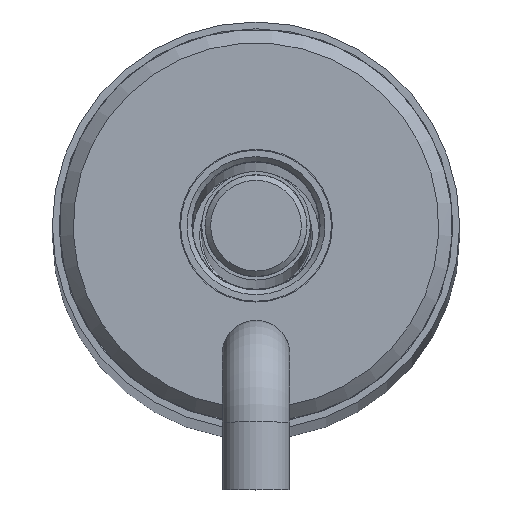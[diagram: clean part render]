
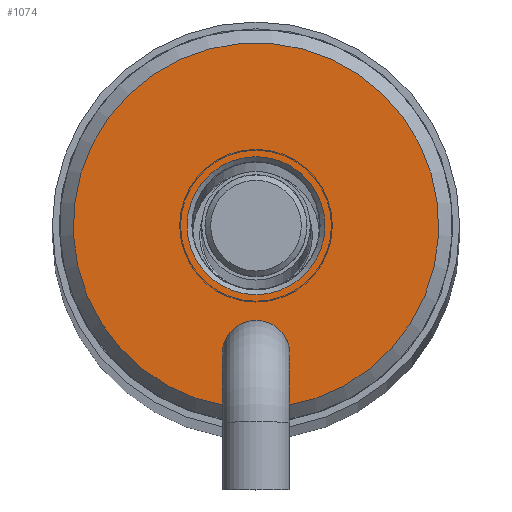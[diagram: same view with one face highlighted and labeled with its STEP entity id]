
A CAD part, top view. The second image highlights one B-rep face of the part: STEP entity #1074.
In plain terms, the highlighted planar face has unit normal (0, 0, 1).
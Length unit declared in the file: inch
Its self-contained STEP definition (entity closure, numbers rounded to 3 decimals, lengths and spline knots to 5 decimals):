
#78=FACE_BOUND('',#214,.T.);
#116=PLANE('',#1254);
#145=FACE_OUTER_BOUND('',#213,.T.);
#213=EDGE_LOOP('',(#719,#720,#721,#722,#723));
#214=EDGE_LOOP('',(#724));
#294=LINE('',#1700,#344);
#297=LINE('',#1710,#347);
#344=VECTOR('',#1401,0.3937);
#347=VECTOR('',#1406,0.3937);
#396=CIRCLE('',#1249,0.0625);
#398=CIRCLE('',#1251,0.0625);
#399=CIRCLE('',#1255,0.3365);
#400=CIRCLE('',#1256,0.127);
#448=VERTEX_POINT('',#1686);
#449=VERTEX_POINT('',#1688);
#452=VERTEX_POINT('',#1694);
#453=VERTEX_POINT('',#1699);
#456=VERTEX_POINT('',#1709);
#457=VERTEX_POINT('',#1712);
#550=EDGE_CURVE('',#449,#448,#396,.T.);
#554=EDGE_CURVE('',#448,#452,#398,.T.);
#555=EDGE_CURVE('',#453,#449,#294,.T.);
#559=EDGE_CURVE('',#452,#456,#297,.T.);
#560=EDGE_CURVE('',#453,#456,#399,.T.);
#561=EDGE_CURVE('',#457,#457,#400,.T.);
#719=ORIENTED_EDGE('',*,*,#550,.T.);
#720=ORIENTED_EDGE('',*,*,#554,.T.);
#721=ORIENTED_EDGE('',*,*,#559,.T.);
#722=ORIENTED_EDGE('',*,*,#560,.F.);
#723=ORIENTED_EDGE('',*,*,#555,.T.);
#724=ORIENTED_EDGE('',*,*,#561,.T.);
#1074=ADVANCED_FACE('',(#145,#78),#116,.T.);
#1249=AXIS2_PLACEMENT_3D('',#1689,#1389,#1390);
#1251=AXIS2_PLACEMENT_3D('',#1696,#1395,#1396);
#1254=AXIS2_PLACEMENT_3D('',#1708,#1404,#1405);
#1255=AXIS2_PLACEMENT_3D('',#1711,#1407,#1408);
#1256=AXIS2_PLACEMENT_3D('',#1713,#1409,#1410);
#1389=DIRECTION('center_axis',(0.,0.,
-1.));
#1390=DIRECTION('ref_axis',(1.,0.,0.));
#1395=DIRECTION('center_axis',(0.,0.,
-1.));
#1396=DIRECTION('ref_axis',(1.,0.,0.));
#1401=DIRECTION('',(0.,1.,0.));
#1404=DIRECTION('center_axis',(0.,0.,
1.));
#1405=DIRECTION('ref_axis',(1.,0.,0.));
#1406=DIRECTION('',(0.,-1.,0.));
#1407=DIRECTION('center_axis',(0.,0.,
-1.));
#1408=DIRECTION('ref_axis',(-1.,0.,0.));
#1409=DIRECTION('center_axis',(0.,0.,
-1.));
#1410=DIRECTION('ref_axis',(-1.,0.,0.));
#1686=CARTESIAN_POINT('',(-0.0625,-0.237,10.49));
#1688=CARTESIAN_POINT('',(-0.053,-0.27012,10.49));
#1689=CARTESIAN_POINT('Origin',(0.,-0.237,10.49));
#1694=CARTESIAN_POINT('',(0.053,-0.27012,10.49));
#1696=CARTESIAN_POINT('Origin',(0.,-0.237,10.49));
#1699=CARTESIAN_POINT('',(-0.053,-0.3323,10.49));
#1700=CARTESIAN_POINT('',(-0.053,0.04975,10.49));
#1708=CARTESIAN_POINT('Origin',(0.,0.3365,10.49));
#1709=CARTESIAN_POINT('',(0.053,-0.3323,10.49));
#1710=CARTESIAN_POINT('',(0.053,-0.01055,10.49));
#1711=CARTESIAN_POINT('Origin',(0.,0.,
10.49));
#1712=CARTESIAN_POINT('',(0.,-0.127,10.49));
#1713=CARTESIAN_POINT('Origin',(0.,0.,
10.49));
